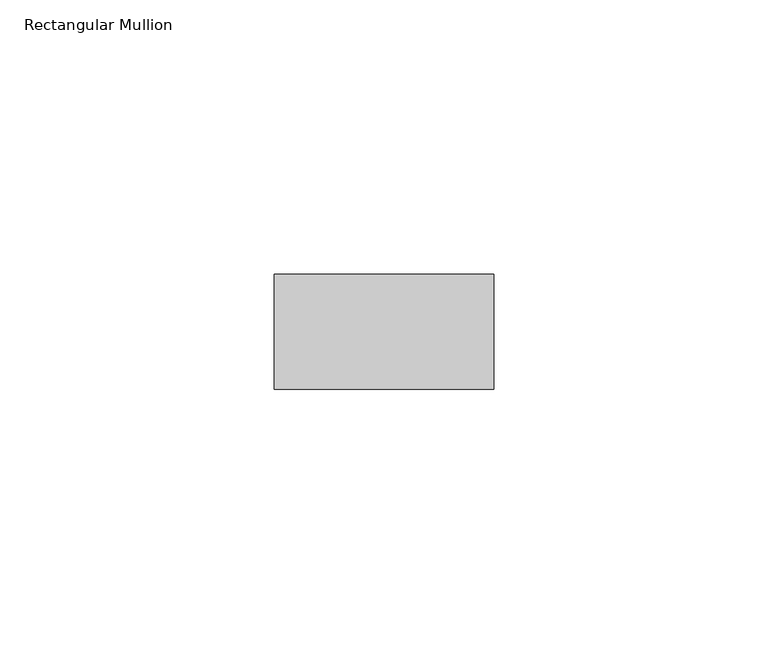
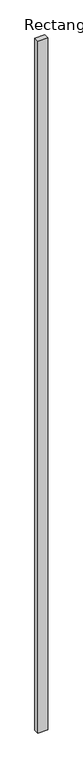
"""IFC4 building model written with IfcOpenShell, lengths in millimetres: member geometry, Rectangular Mullion : RSen_21_CWM_support profile - 40x21 - right_gen_duco projects."""

from ifc_helpers import new_model, si_unit, frame, origin, place, context, project, spatial, polyline, outline, extrude, source, transform, mapped, element, save


def rectangular_mullion_2b30d03f(model_context):
    return source(origin(), model_context, "Body", "SweptSolid", [
        extrude(outline(polyline([(-90.0, 0.0), (-50.0, 0.0), (-50.0, -21.0), (-90.0, -21.0), (-90.0, 0.0)])), frame((0.0, 0.0, -3000.0), z_axis=(0.0, 0.0, 1.0), x_axis=(1.0, 0.0, 0.0)), (0.0, 0.0, 1.0), 3000.0),
    ])


if __name__ == "__main__":
    model = new_model("IFC4")
    model_context = context("Model", 3, world=origin())
    ifc_project = project(units=[si_unit("LENGTHUNIT", "METRE", prefix="MILLI")], contexts=[model_context])
    site = spatial("IfcSite", under=ifc_project)
    building = spatial("IfcBuilding", under=site)
    placement = place(None, origin())
    rectangular_mullion_shape = rectangular_mullion_2b30d03f(model_context)
    element("IfcMember", 1, ObjectType="Rectangular Mullion : RSen_21_CWM_support profile - 40x21 - right_gen_duco projects", at=placement, inside=building, context=model_context, shape_type="MappedRepresentation", body=[
        mapped(rectangular_mullion_shape, transform((0.0, 0.0, 0.0), x_axis=(1.0, 0.0, 0.0), y_axis=(0.0, 1.0, 0.0), z_axis=(0.0, 0.0, 1.0))),
    ])
    save(model, "model.ifc")
